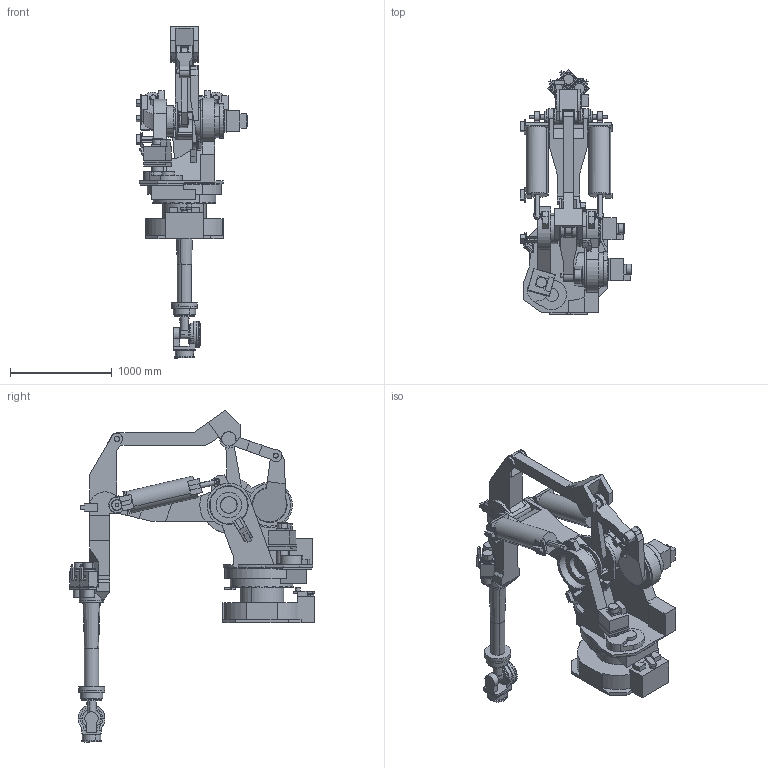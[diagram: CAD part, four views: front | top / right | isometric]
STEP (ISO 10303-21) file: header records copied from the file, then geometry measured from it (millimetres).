
FILE_DESCRIPTION(('CATIA V5 STEP Exchange'),'2;1');
FILE_NAME('F:\☆新しいフォルダ\【K-ROSET】\K-ROSET_モデル\ロボット\※ヤスナ様依頼分データ確認\_MT400N_簡素化\MT400N catiaASSY.stp','2015-09-11T08:04:02+00:00',('none'),('none'),'Version 5-6 Release 2012','CATIA V5 STEP AP203','none');
FILE_SCHEMA(('CONFIG_CONTROL_DESIGN'));
Length unit declared in the file: millimetre
Products named in the file (1): MT400N catiaASSY
Assembly tree (11 placements, depth 2):
  MT400N catiaASSY
    #57
    #1816
    #15610
    #20910
    #21557
    #22717
    #24185
    #24360
    #25952
    #26819
    #27635
Bounding box: 1097.7 x 2414.2 x 3265.34 mm (x, y, z)
Surface area: 17894811.5 mm2 (no closed solid volume)
Topology: 0 solids, 13 shells, 1212 faces, 3200 edges, 2132 vertices
Faces by surface type: plane 886, cylinder 321, cone 5
Entity records: 35593 total; most frequent: CARTESIAN_POINT 6620, ORIENTED_EDGE 6400, DIRECTION 4973, EDGE_CURVE 3200, VECTOR 2250, LINE 2250, VERTEX_POINT 2132, AXIS2_PLACEMENT_3D 1813
